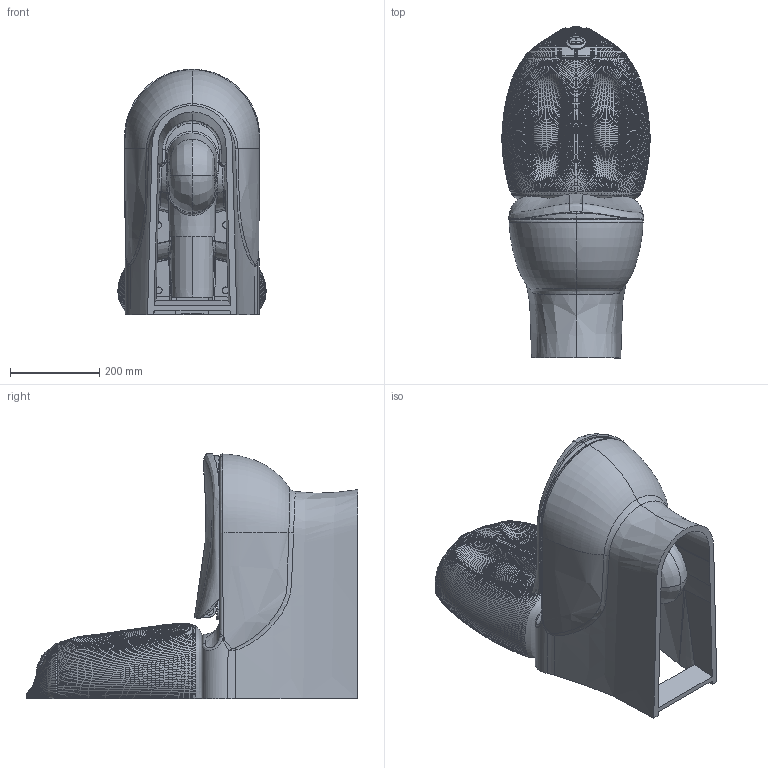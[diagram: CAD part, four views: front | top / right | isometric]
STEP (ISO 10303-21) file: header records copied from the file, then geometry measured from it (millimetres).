
FILE_DESCRIPTION (( 'STEP AP203' ), '1' );
FILE_NAME ('DC360 Ducky Klozet.STEP', '2022-03-29T14:32:21', ( '' ), ( '' ), 'SwSTEP 2.0', 'SolidWorks 2021', '' );
FILE_SCHEMA (( 'CONFIG_CONTROL_DESIGN' ));
Products named in the file (1): DC360 Ducky Klozet
Bounding box: 332.29 x 744.62 x 551.18 mm (x, y, z)
Surface area: 2041180.6 mm2 (no closed solid volume)
Topology: 0 solids, 24 shells, 15528 faces, 32283 edges, 16806 vertices
Faces by surface type: bspline 15015, plane 210, torus 116, cylinder 95, cone 69, sphere 23
Entity records: 681613 total; most frequent: CARTESIAN_POINT 416091, ORIENTED_EDGE 64464, EDGE_CURVE 32245, DIRECTION 29801, VECTOR 27385, LINE 27385, VERTEX_POINT 16801, EDGE_LOOP 15594
